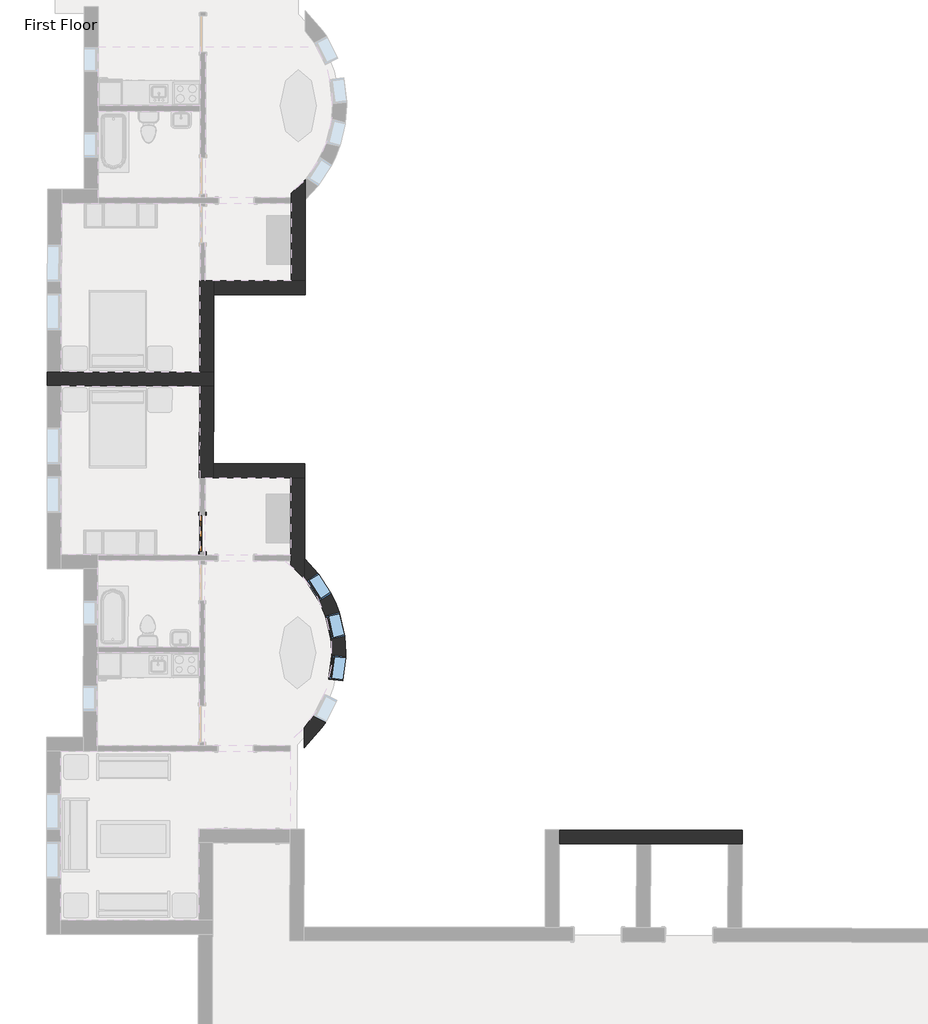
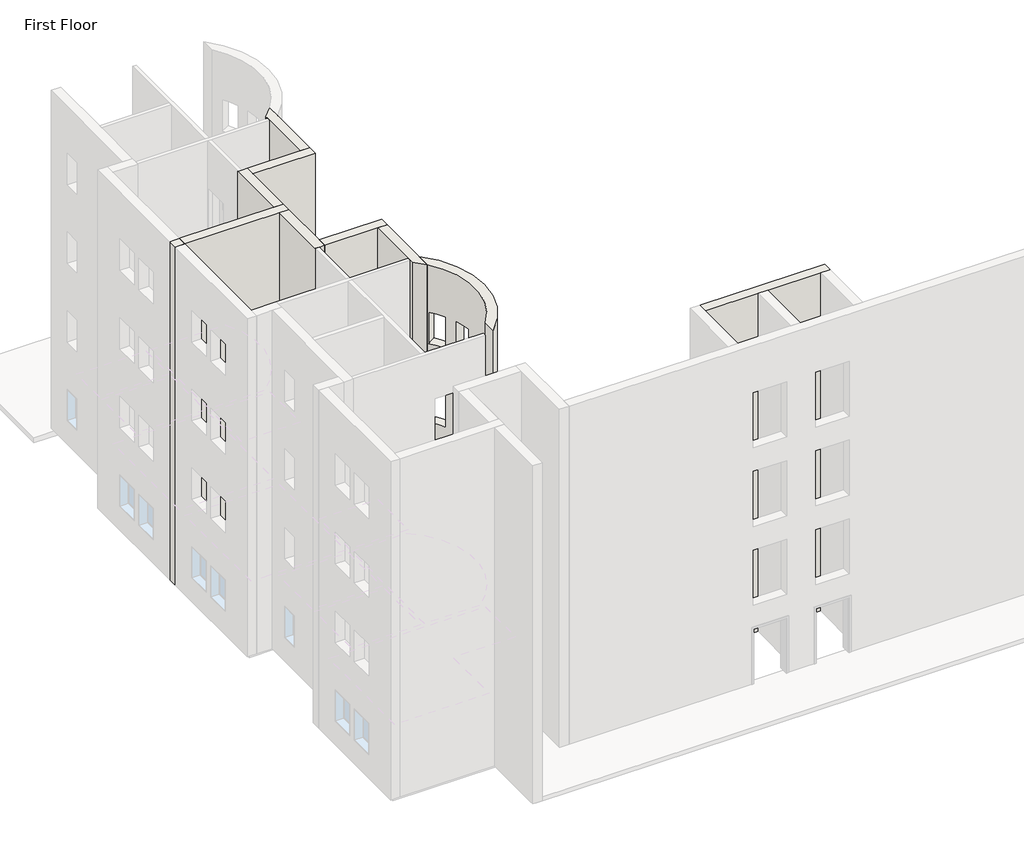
# One storey, part 7 of 23: 10 walls, 3 windows, 1 door.
"""IFC4 building model written with IfcOpenShell, lengths in millimetres."""

from ifc_helpers import new_model, si_unit, frame, origin, origin_with_axes, place, context, project, spatial, polyline, circle_curve, outline, extrude, faceted_brep, transform, mapped, element, save
from ifc_brep_helpers import plane_surface, cylinder_surface, revolved_surface, advanced_brep
from components import m_single_decorative_2_0915_x_2134mm_0b11df3f, m_fixed_0610_x_1220mm_2c28ef1d, m_fixed_0610_x_1220mm_1ea27827

model = new_model("IFC4")

# Units and contexts
model_context = context("Model", 3, world=origin())
ifc_project = project(units=[si_unit("LENGTHUNIT", "METRE", prefix="MILLI")], contexts=[model_context])

# Site, building, storey
site = spatial("IfcSite", under=ifc_project)
building = spatial("IfcBuilding", under=site)
storey = spatial("IfcBuildingStorey", under=building, Name="First Floor", Elevation=0.0)

# Door
placement = place(None, origin())
m_single_decorative_2_0915_x_2134mm_shape = m_single_decorative_2_0915_x_2134mm_0b11df3f(model_context)
element("IfcDoor", 1, ObjectType="M_Single-Decorative 2 : 0915 x 2134mm", at=placement, inside=storey, context=model_context, shape_type="MappedRepresentation", body=[
    mapped(m_single_decorative_2_0915_x_2134mm_shape, transform((-30128.4841363, -23534.6169126, 0.0), x_axis=(-0.0014474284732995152, -0.9999989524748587, 0.0), y_axis=(0.9999989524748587, -0.0014474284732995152, 0.0), z_axis=(0.0, 0.0, 1.0))),
])

# Walls
element("IfcWall", 2, ObjectType="Exterior - Brick on Mtl. Stud", at=placement, inside=storey, context=model_context, shape_type="Brep", body=[
    faceted_brep([(-29847.6357278, -19494.2691882, 0.0), (-30197.6353611, -19493.7625882, 0.0), (-33657.6317367, -19488.7544857, 0.0), (-34007.6313701, -19488.2478857, 0.0), (-34007.6313701, -19488.2478857, 13107.0), (-33657.6317367, -19488.7544857, 13107.0), (-30197.6353611, -19493.7625882, 13107.0), (-29847.6357278, -19494.2691882, 13107.0), (-29848.1423277, -19844.2688215, 0.0), (-29848.1423277, -19844.2688215, 13107.0), (-30198.1419611, -19843.7622216, 13107.0), (-33658.1383367, -19838.7541191, 13107.0), (-34008.13797, -19838.2475191, 13107.0), (-34008.13797, -19838.2475191, 0.0), (-33658.1383367, -19838.7541191, 0.0), (-30198.1419611, -19843.7622216, 0.0)], [[[0, 1, 2, 3, 4, 5, 6, 7]], [[8, 9, 10, 11, 12, 13, 14, 15]], [[3, 2, 1, 0, 8, 15, 14, 13]], [[7, 6, 5, 4, 12, 11, 10, 9]], [[4, 3, 13, 12]], [[0, 7, 9, 8]]]),
])
element("IfcWall", 3, ObjectType="Exterior - Brick on Mtl. Stud", at=placement, inside=storey, context=model_context, shape_type="Brep", body=[
    faceted_brep([(-29847.6357278, -19494.2691882, 0.0), (-29844.8335063, -17558.2712162, 0.0), (-29844.3269063, -17208.2715828, 0.0), (-29844.3269063, -17208.2715828, 13107.0), (-29844.8335063, -17558.2712162, 13107.0), (-29847.6357278, -19494.2691882, 13107.0), (-30197.6353611, -19493.7625882, 0.0), (-30197.6353611, -19493.7625882, 13107.0), (-30194.3265397, -17207.7649828, 13107.0), (-30194.3265397, -17207.7649828, 0.0), (-30187.0765472, -17207.7754767, 0.0), (-30051.5766892, -17207.9716033, 0.0), (-30051.5766892, -17207.9716033, 13107.0), (-30187.0765472, -17207.7754767, 13107.0)], [[[0, 1, 2, 3, 4, 5]], [[6, 7, 8, 9]], [[2, 1, 0, 6, 9, 10, 11]], [[5, 4, 3, 12, 13, 8, 7]], [[0, 5, 7, 6]], [[3, 2, 11, 10, 9, 8, 13, 12]]]),
])
element("IfcWall", 4, ObjectType="Exterior - Brick on Mtl. Stud", at=placement, inside=storey, context=model_context, shape_type="Brep", body=[
    faceted_brep([(-29844.8335063, -17558.2712162, 0.0), (-27558.8359009, -17561.5800377, 0.0), (-27558.8359009, -17561.5800377, 13107.0), (-29844.8335063, -17558.2712162, 13107.0), (-29844.3269063, -17208.2715828, 0.0), (-29844.3269063, -17208.2715828, 13107.0), (-27908.3289343, -17211.0738043, 13107.0), (-27558.3293009, -17211.5804043, 13107.0), (-27558.3293009, -17211.5804043, 0.0), (-27908.3289343, -17211.0738043, 0.0)], [[[0, 1, 2, 3]], [[4, 5, 6, 7, 8, 9]], [[1, 0, 4, 9, 8]], [[3, 2, 7, 6, 5]], [[0, 3, 5, 4]], [[2, 1, 8, 7]]]),
])
element("IfcWall", 5, ObjectType="Exterior - Brick on Mtl. Stud", at=placement, inside=storey, context=model_context, shape_type="AdvancedBrep", body=[
    advanced_brep(
    [(-27558.3293009, -17211.5804043, 0.0), (-27555.3862129, -15178.2606268, 0.0), (-27554.6547514, -14672.9086878, 0.0), (-27554.6547514, -14672.9086878, 13107.0), (-27555.3862129, -15178.2606268, 13107.0), (-27558.3293009, -17211.5804043, 13107.0), (-27908.3289343, -17211.0738043, 0.0), (-27908.3289343, -17211.0738043, 13107.0), (-27905.5162189, -15267.8258399, 13107.0), (-27905.3200924, -15132.3259819, 13107.0), (-27905.157022, -15019.663975, 13107.0), (-27905.157022, -15019.663975, 0.0), (-27905.3200924, -15132.3259819, 0.0), (-27905.5162189, -15267.8258399, 0.0)],
    [
        (0, 1),
        (1, 2),
        (2, 3),
        (3, 4),
        (4, 5),
        (5, 0),
        (6, 7),
        (7, 8),
        (8, 9),
        (9, 10),
        (10, 11),
        (11, 12),
        (12, 13),
        (13, 6),
        (0, 6),
        (11, 2, circle_curve(frame((-29743.0251618, -12811.413604, 0.0), z_axis=(0.0, 0.0, 1.0), x_axis=(0.0014474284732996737, 0.9999989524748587, 0.0)), 2873.0)),
        (3, 10, circle_curve(frame((-29743.0251618, -12811.413604, 13107.0), z_axis=(0.0, 0.0, -1.0), x_axis=(0.0014474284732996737, 0.9999989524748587, 0.0)), 2873.0)),
        (7, 5),
    ],
    [
        plane_surface(frame((-27558.5826009, -17386.580221, 0.0), z_axis=(0.9999989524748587, -0.0014474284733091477, 0.0), x_axis=(0.0014474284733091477, 0.9999989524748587, 0.0))),
        plane_surface(frame((-27908.5822343, -17386.073621, 0.0), z_axis=(-0.9999989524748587, 0.0014474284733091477, 0.0), x_axis=(-0.0014474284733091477, -0.9999989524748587, 0.0))),
        plane_surface(frame((-27558.5826009, -17386.580221, 0.0), z_axis=(0.0, 0.0, -1.0), x_axis=(-0.9999989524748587, 0.001447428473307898, 0.0))),
        plane_surface(frame((-27555.2737794, -15100.5826156, 13107.0), z_axis=(0.0, 0.0, 1.0), x_axis=(-0.9999989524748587, 0.001447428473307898, 0.0))),
        plane_surface(frame((-30019.326723, -17208.0182828, 0.0), z_axis=(-0.0014474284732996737, -0.9999989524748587, 0.0), x_axis=(-0.9999989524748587, 0.0014474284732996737, 0.0))),
        revolved_surface(polyline([(-29738.86669979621, -9938.41661353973, 0.0), (-29738.86669979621, -9938.41661353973, 13107.0)]), (-29743.0251618, -12811.413604, 0.0), (0.0, 0.0, -1.0)),
    ],
    [
        (0, [[1, 2, 3, 4, 5, 6]]),
        (1, [[7, 8, 9, 10, 11, 12, 13, 14]]),
        (2, [[-2, -1, 15, -14, -13, -12, 16]]),
        (3, [[-5, -4, 17, -10, -9, -8, 18]]),
        (4, [[-6, -18, -7, -15]]),
        (5, [[-3, -16, -11, -17]]),
    ],
),
])
element("IfcWall", 6, ObjectType="Exterior - Brick on Mtl. Stud", at=placement, inside=storey, context=model_context, shape_type="Brep", body=[
    faceted_brep([(-21195.7227592, -31299.3523369, 0.0), (-19259.7308712, -31304.9567741, 0.0), (-18909.7323377, -31305.969973, 0.0), (-16973.7404497, -31311.5744101, 0.0), (-16623.7419163, -31312.587609, 0.0), (-16623.7419163, -31312.587609, 13107.0), (-16973.7404497, -31311.5744101, 13107.0), (-18909.7323377, -31305.969973, 13107.0), (-19259.7308712, -31304.9567741, 13107.0), (-21195.7227592, -31299.3523369, 13107.0), (-21194.7095603, -30949.3538034, 0.0), (-21194.7095603, -30949.3538034, 13107.0), (-16622.7287174, -30962.5890755, 13107.0), (-16622.7287174, -30962.5890755, 0.0)], [[[0, 1, 2, 3, 4, 5, 6, 7, 8, 9]], [[10, 11, 12, 13]], [[4, 3, 2, 1, 0, 10, 13]], [[9, 8, 7, 6, 5, 12, 11]], [[0, 9, 11, 10]], [[5, 4, 13, 12]]]),
])
element("IfcWall", 7, ObjectType="Exterior - Brick on Mtl. Stud", at=placement, inside=storey, context=model_context, shape_type="SweptSolid", body=[
    extrude(outline(polyline([(-33657.6317367, -19488.7544857), (-30197.6353611, -19493.7625882), (-30198.1419611, -19843.7622216), (-33658.1383367, -19838.7541191), (-33657.6317367, -19488.7544857)])), origin_with_axes(), (0.0, 0.0, 1.0), 13107.0),
])
element("IfcWall", 8, ObjectType="Exterior - Brick on Mtl. Stud", at=placement, inside=storey, context=model_context, shape_type="Brep", body=[
    faceted_brep([(-30198.1419611, -19843.7622216, 0.0), (-30201.4507826, -22129.7598269, 0.0), (-30201.4507826, -22129.7598269, 13107.0), (-30198.1419611, -19843.7622216, 13107.0), (-29848.1423277, -19844.2688215, 0.0), (-29848.1423277, -19844.2688215, 13107.0), (-29850.9445493, -21780.2667935, 13107.0), (-29851.4511492, -22130.2664269, 13107.0), (-29851.4511492, -22130.2664269, 0.0), (-29850.9445493, -21780.2667935, 0.0), (-30058.7009321, -22129.9664473, 0.0), (-30194.2007902, -22129.7703208, 0.0), (-30194.2007902, -22129.7703208, 13107.0), (-30058.7009321, -22129.9664473, 13107.0)], [[[0, 1, 2, 3]], [[4, 5, 6, 7, 8, 9]], [[1, 0, 4, 9, 8, 10, 11]], [[3, 2, 12, 13, 7, 6, 5]], [[2, 1, 11, 10, 8, 7, 13, 12]], [[0, 3, 5, 4]]]),
])
element("IfcWall", 9, ObjectType="Exterior - Brick on Mtl. Stud", at=placement, inside=storey, context=model_context, shape_type="Brep", body=[
    faceted_brep([(-29851.4511492, -22130.2664269, 0.0), (-27915.4531772, -22133.0686484, 0.0), (-27565.4535439, -22133.5752484, 0.0), (-27565.4535439, -22133.5752484, 13107.0), (-27915.4531772, -22133.0686484, 13107.0), (-29851.4511492, -22130.2664269, 13107.0), (-29850.9445493, -21780.2667935, 0.0), (-29850.9445493, -21780.2667935, 13107.0), (-27564.9469439, -21783.575615, 13107.0), (-27564.9469439, -21783.575615, 0.0)], [[[0, 1, 2, 3, 4, 5]], [[6, 7, 8, 9]], [[2, 1, 0, 6, 9]], [[5, 4, 3, 8, 7]], [[0, 5, 7, 6]], [[3, 2, 9, 8]]]),
])
element("IfcWall", 10, ObjectType="Exterior - Brick on Mtl. Stud", at=placement, inside=storey, context=model_context, shape_type="AdvancedBrep", body=[
    advanced_brep(
    [(-27915.4531772, -22133.0686484, 0.0), (-27918.2658926, -24076.3166128, 0.0), (-27918.4620192, -24211.8164709, 0.0), (-27918.6250895, -24324.4784778, 0.0), (-27918.6250895, -24324.4784778, 13107.0), (-27918.4620192, -24211.8164709, 13107.0), (-27918.2658926, -24076.3166128, 13107.0), (-27915.4531772, -22133.0686484, 13107.0), (-27565.4535439, -22133.5752484, 0.0), (-27565.4535439, -22133.5752484, 13107.0), (-27568.3966319, -24166.8950259, 13107.0), (-27569.1280934, -24672.2469649, 13107.0), (-27569.1280934, -24672.2469649, 0.0), (-27568.3966319, -24166.8950259, 0.0)],
    [
        (0, 1),
        (1, 2),
        (2, 3),
        (3, 4),
        (4, 5),
        (5, 6),
        (6, 7),
        (7, 0),
        (8, 9),
        (9, 10),
        (10, 11),
        (11, 12),
        (12, 13),
        (13, 8),
        (0, 8),
        (12, 3, circle_curve(frame((-29762.8780907, -26527.3992362, 0.0), z_axis=(0.0, 0.0, 1.0), x_axis=(-0.0014474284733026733, -0.9999989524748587, 0.0)), 2873.0)),
        (4, 11, circle_curve(frame((-29762.8780907, -26527.3992362, 13107.0), z_axis=(0.0, 0.0, -1.0), x_axis=(-0.0014474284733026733, -0.9999989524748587, 0.0)), 2873.0)),
        (9, 7),
    ],
    [
        plane_surface(frame((-27915.1998773, -21958.0688317, 0.0), z_axis=(-0.9999989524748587, 0.0014474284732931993, 0.0), x_axis=(-0.0014474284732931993, -0.9999989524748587, 0.0))),
        plane_surface(frame((-27565.2002439, -21958.5754317, 0.0), z_axis=(0.9999989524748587, -0.0014474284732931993, 0.0), x_axis=(0.0014474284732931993, 0.9999989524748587, 0.0))),
        plane_surface(frame((-27915.1998773, -21958.0688317, 0.0), z_axis=(0.0, 0.0, -1.0), x_axis=(0.9999989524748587, -0.0014474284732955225, 0.0))),
        plane_surface(frame((-27918.5086987, -24244.0664371, 13107.0), z_axis=(0.0, 0.0, 1.0), x_axis=(0.9999989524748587, -0.0014474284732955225, 0.0))),
        plane_surface(frame((-30026.4509659, -22130.0131269, 0.0), z_axis=(0.0014474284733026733, 0.9999989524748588, 0.0), x_axis=(0.9999989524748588, -0.0014474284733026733, 0.0))),
        revolved_surface(polyline([(-29767.036552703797, -29400.39622666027, 0.0), (-29767.036552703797, -29400.39622666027, 13107.000000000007)]), (-29762.8780907, -26527.3992362, 0.0), (0.0, 0.0, -1.0000000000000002)),
    ],
    [
        (0, [[1, 2, 3, 4, 5, 6, 7, 8]]),
        (1, [[9, 10, 11, 12, 13, 14]]),
        (2, [[-3, -2, -1, 15, -14, -13, 16]]),
        (3, [[-7, -6, -5, 17, -11, -10, 18]]),
        (4, [[-8, -18, -9, -15]]),
        (5, [[-4, -16, -12, -17]]),
    ],
),
])
element("IfcWall", 11, ObjectType="Exterior - Brick on Mtl. Stud", at=placement, inside=storey, context=model_context, shape_type="AdvancedBrep", body=[
    advanced_brep(
    [(-27575.2391418, -28894.246259, 13107.0), (-27568.3966319, -24166.8950259, 13107.0), (-27569.1280934, -24672.2469649, 13107.0), (-27574.5076803, -28388.8943199, 13107.0), (-27568.3966319, -24166.8950259, 0.0), (-27575.2391418, -28894.246259, 0.0), (-27574.5076803, -28388.8943199, 0.0), (-27569.1280934, -24672.2469649, 0.0), (-27239.7477676, -24522.0208747, 2135.0), (-27239.7477676, -24522.0208747, 915.0), (-26907.0944773, -25033.3346614, 915.0), (-26907.0944773, -25033.3346614, 2135.0), (-26706.0313502, -25505.9213828, 2135.0), (-26706.0313502, -25505.9213828, 915.0), (-26568.3191227, -26100.173301, 915.0), (-26568.3191227, -26100.173301, 2135.0), (-26614.8547262, -27218.5416936, 915.0), (-26614.8547262, -27218.5416936, 2135.0), (-26541.0157639, -26613.0271953, 2135.0), (-26541.0157639, -26613.0271953, 915.0), (-27041.0884074, -28253.5481057, 915.0), (-27041.0884074, -28253.5481057, 2135.0), (-26764.6043239, -27709.8050123, 2135.0), (-26764.6043239, -27709.8050123, 915.0), (-26614.8547262, -27218.5416936, 10059.0), (-26614.8547262, -27218.5416936, 11279.0), (-26541.0157639, -26613.0271953, 11279.0), (-26541.0157639, -26613.0271953, 10059.0), (-27041.0884074, -28253.5481057, 10059.0), (-27041.0884074, -28253.5481057, 11279.0), (-26764.6043239, -27709.8050123, 11279.0), (-26764.6043239, -27709.8050123, 10059.0), (-26706.0313502, -25505.9213828, 10059.0), (-26568.3191227, -26100.173301, 10059.0), (-26568.3191227, -26100.173301, 11279.0), (-26706.0313502, -25505.9213828, 11279.0), (-27239.7477676, -24522.0208747, 10059.0), (-26907.0944773, -25033.3346614, 10059.0), (-26907.0944773, -25033.3346614, 11279.0), (-27239.7477676, -24522.0208747, 11279.0), (-26614.8547262, -27218.5416936, 3963.0), (-26614.8547262, -27218.5416936, 5183.0), (-26541.0157639, -26613.0271953, 5183.0), (-26541.0157639, -26613.0271953, 3963.0), (-27041.0884074, -28253.5481057, 3963.0), (-27041.0884074, -28253.5481057, 5183.0), (-26764.6043239, -27709.8050123, 5183.0), (-26764.6043239, -27709.8050123, 3963.0), (-26706.0313502, -25505.9213828, 3963.0), (-26568.3191227, -26100.173301, 3963.0), (-26568.3191227, -26100.173301, 5183.0), (-26706.0313502, -25505.9213828, 5183.0), (-27239.7477676, -24522.0208747, 3963.0), (-26907.0944773, -25033.3346614, 3963.0), (-26907.0944773, -25033.3346614, 5183.0), (-27239.7477676, -24522.0208747, 5183.0), (-26614.8547262, -27218.5416936, 7011.0), (-26614.8547262, -27218.5416936, 8231.0), (-26541.0157639, -26613.0271953, 8231.0), (-26541.0157639, -26613.0271953, 7011.0), (-27041.0884074, -28253.5481057, 7011.0), (-27041.0884074, -28253.5481057, 8231.0), (-26764.6043239, -27709.8050123, 8231.0), (-26764.6043239, -27709.8050123, 7011.0), (-26706.0313502, -25505.9213828, 7011.0), (-26568.3191227, -26100.173301, 7011.0), (-26568.3191227, -26100.173301, 8231.0), (-26706.0313502, -25505.9213828, 8231.0), (-27239.7477676, -24522.0208747, 7011.0), (-26907.0944773, -25033.3346614, 7011.0), (-26907.0944773, -25033.3346614, 8231.0), (-27239.7477676, -24522.0208747, 8231.0), (-27534.6094454, -24713.8535807, 915.0), (-27534.6094454, -24713.8535807, 2135.0), (-27201.9561552, -25225.1673674, 2135.0), (-27201.9561552, -25225.1673674, 915.0), (-27048.7213426, -25585.3365277, 915.0), (-27048.7213426, -25585.3365277, 2135.0), (-26911.0091151, -26179.588446, 2135.0), (-26911.0091151, -26179.588446, 915.0), (-26964.0395625, -27175.960639, 915.0), (-26890.2006003, -26570.4461407, 915.0), (-26890.2006003, -26570.4461407, 2135.0), (-26964.0395625, -27175.960639, 2135.0), (-27354.651243, -28094.1067551, 915.0), (-27078.1671595, -27550.3636617, 915.0), (-27078.1671595, -27550.3636617, 2135.0), (-27354.651243, -28094.1067551, 2135.0), (-26964.0395625, -27175.960639, 10059.0), (-26890.2006003, -26570.4461407, 10059.0), (-26890.2006003, -26570.4461407, 11279.0), (-26964.0395625, -27175.960639, 11279.0), (-27354.651243, -28094.1067551, 10059.0), (-27078.1671595, -27550.3636617, 10059.0), (-27078.1671595, -27550.3636617, 11279.0), (-27354.651243, -28094.1067551, 11279.0), (-27048.7213426, -25585.3365277, 10059.0), (-27048.7213426, -25585.3365277, 11279.0), (-26911.0091151, -26179.588446, 11279.0), (-26911.0091151, -26179.588446, 10059.0), (-27534.6094454, -24713.8535807, 10059.0), (-27534.6094454, -24713.8535807, 11279.0), (-27201.9561552, -25225.1673674, 11279.0), (-27201.9561552, -25225.1673674, 10059.0), (-26964.0395625, -27175.960639, 3963.0), (-26890.2006003, -26570.4461407, 3963.0), (-26890.2006003, -26570.4461407, 5183.0), (-26964.0395625, -27175.960639, 5183.0), (-27354.651243, -28094.1067551, 3963.0), (-27078.1671595, -27550.3636617, 3963.0), (-27078.1671595, -27550.3636617, 5183.0), (-27354.651243, -28094.1067551, 5183.0), (-27048.7213426, -25585.3365277, 3963.0), (-27048.7213426, -25585.3365277, 5183.0), (-26911.0091151, -26179.588446, 5183.0), (-26911.0091151, -26179.588446, 3963.0), (-27534.6094454, -24713.8535807, 3963.0), (-27534.6094454, -24713.8535807, 5183.0), (-27201.9561552, -25225.1673674, 5183.0), (-27201.9561552, -25225.1673674, 3963.0), (-26964.0395625, -27175.960639, 7011.0), (-26890.2006003, -26570.4461407, 7011.0), (-26890.2006003, -26570.4461407, 8231.0), (-26964.0395625, -27175.960639, 8231.0), (-27354.651243, -28094.1067551, 7011.0), (-27078.1671595, -27550.3636617, 7011.0), (-27078.1671595, -27550.3636617, 8231.0), (-27354.651243, -28094.1067551, 8231.0), (-27048.7213426, -25585.3365277, 7011.0), (-27048.7213426, -25585.3365277, 8231.0), (-26911.0091151, -26179.588446, 8231.0), (-26911.0091151, -26179.588446, 7011.0), (-27534.6094454, -24713.8535807, 7011.0), (-27534.6094454, -24713.8535807, 8231.0), (-27201.9561552, -25225.1673674, 8231.0), (-27201.9561552, -25225.1673674, 7011.0)],
    [
        (0, 1, circle_curve(frame((-29762.8780907, -26527.3992362, 13107.0), z_axis=(0.0, 0.0, 1.0), x_axis=(-0.0014474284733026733, -0.9999989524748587, 0.0)), 3223.0)),
        (1, 2),
        (2, 3, circle_curve(frame((-29762.8780907, -26527.3992362, 13107.0), z_axis=(0.0, 0.0, -1.0), x_axis=(-0.0014474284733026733, -0.9999989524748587, 0.0)), 2873.0)),
        (3, 0),
        (4, 5, circle_curve(frame((-29762.8780907, -26527.3992362, 0.0), z_axis=(0.0, 0.0, -1.0), x_axis=(-0.0014474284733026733, -0.9999989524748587, 0.0)), 3223.0)),
        (5, 6),
        (6, 7, circle_curve(frame((-29762.8780907, -26527.3992362, 0.0), z_axis=(0.0, 0.0, 1.0), x_axis=(-0.0014474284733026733, -0.9999989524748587, 0.0)), 2873.0)),
        (7, 4),
        (0, 5),
        (4, 1),
        (8, 9),
        (9, 10, circle_curve(frame((-29762.8780907, -26527.3992362, 915.0), z_axis=(0.0, 0.0, -1.0), x_axis=(-0.0014474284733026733, -0.9999989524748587, 0.0)), 3223.0)),
        (10, 11),
        (11, 8, circle_curve(frame((-29762.8780907, -26527.3992362, 2135.0), z_axis=(0.0, 0.0, 1.0), x_axis=(-0.0014474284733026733, -0.9999989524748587, 0.0)), 3223.0)),
        (12, 13),
        (13, 14, circle_curve(frame((-29762.8780907, -26527.3992362, 915.0), z_axis=(0.0, 0.0, -1.0), x_axis=(-0.0014474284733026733, -0.9999989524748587, 0.0)), 3223.0)),
        (14, 15),
        (15, 12, circle_curve(frame((-29762.8780907, -26527.3992362, 2135.0), z_axis=(0.0, 0.0, 1.0), x_axis=(-0.0014474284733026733, -0.9999989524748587, 0.0)), 3223.0)),
        (16, 17),
        (17, 18, circle_curve(frame((-29762.8780907, -26527.3992362, 2135.0), z_axis=(0.0, 0.0, 1.0), x_axis=(-0.0014474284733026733, -0.9999989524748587, 0.0)), 3223.0)),
        (18, 19),
        (19, 16, circle_curve(frame((-29762.8780907, -26527.3992362, 915.0), z_axis=(0.0, 0.0, -1.0), x_axis=(-0.0014474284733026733, -0.9999989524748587, 0.0)), 3223.0)),
        (20, 21),
        (21, 22, circle_curve(frame((-29762.8780907, -26527.3992362, 2135.0), z_axis=(0.0, 0.0, 1.0), x_axis=(-0.0014474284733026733, -0.9999989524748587, 0.0)), 3223.0)),
        (22, 23),
        (23, 20, circle_curve(frame((-29762.8780907, -26527.3992362, 915.0), z_axis=(0.0, 0.0, -1.0), x_axis=(-0.0014474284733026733, -0.9999989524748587, 0.0)), 3223.0)),
        (24, 25),
        (25, 26, circle_curve(frame((-29762.8780907, -26527.3992362, 11279.0), z_axis=(0.0, 0.0, 1.0), x_axis=(-0.0014474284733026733, -0.9999989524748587, 0.0)), 3223.0)),
        (26, 27),
        (27, 24, circle_curve(frame((-29762.8780907, -26527.3992362, 10059.0), z_axis=(0.0, 0.0, -1.0), x_axis=(-0.0014474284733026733, -0.9999989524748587, 0.0)), 3223.0)),
        (28, 29),
        (29, 30, circle_curve(frame((-29762.8780907, -26527.3992362, 11279.0), z_axis=(0.0, 0.0, 1.0), x_axis=(-0.0014474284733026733, -0.9999989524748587, 0.0)), 3223.0)),
        (30, 31),
        (31, 28, circle_curve(frame((-29762.8780907, -26527.3992362, 10059.0), z_axis=(0.0, 0.0, -1.0), x_axis=(-0.0014474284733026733, -0.9999989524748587, 0.0)), 3223.0)),
        (32, 33, circle_curve(frame((-29762.8780907, -26527.3992362, 10059.0), z_axis=(0.0, 0.0, -1.0), x_axis=(-0.0014474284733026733, -0.9999989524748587, 0.0)), 3223.0)),
        (33, 34),
        (34, 35, circle_curve(frame((-29762.8780907, -26527.3992362, 11279.0), z_axis=(0.0, 0.0, 1.0), x_axis=(-0.0014474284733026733, -0.9999989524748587, 0.0)), 3223.0)),
        (35, 32),
        (36, 37, circle_curve(frame((-29762.8780907, -26527.3992362, 10059.0), z_axis=(0.0, 0.0, -1.0), x_axis=(-0.0014474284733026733, -0.9999989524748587, 0.0)), 3223.0)),
        (37, 38),
        (38, 39, circle_curve(frame((-29762.8780907, -26527.3992362, 11279.0), z_axis=(0.0, 0.0, 1.0), x_axis=(-0.0014474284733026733, -0.9999989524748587, 0.0)), 3223.0)),
        (39, 36),
        (40, 41),
        (41, 42, circle_curve(frame((-29762.8780907, -26527.3992362, 5183.0), z_axis=(0.0, 0.0, 1.0), x_axis=(-0.0014474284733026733, -0.9999989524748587, 0.0)), 3223.0)),
        (42, 43),
        (43, 40, circle_curve(frame((-29762.8780907, -26527.3992362, 3963.0), z_axis=(0.0, 0.0, -1.0), x_axis=(-0.0014474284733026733, -0.9999989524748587, 0.0)), 3223.0)),
        (44, 45),
        (45, 46, circle_curve(frame((-29762.8780907, -26527.3992362, 5183.0), z_axis=(0.0, 0.0, 1.0), x_axis=(-0.0014474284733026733, -0.9999989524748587, 0.0)), 3223.0)),
        (46, 47),
        (47, 44, circle_curve(frame((-29762.8780907, -26527.3992362, 3963.0), z_axis=(0.0, 0.0, -1.0), x_axis=(-0.0014474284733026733, -0.9999989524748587, 0.0)), 3223.0)),
        (48, 49, circle_curve(frame((-29762.8780907, -26527.3992362, 3963.0), z_axis=(0.0, 0.0, -1.0), x_axis=(-0.0014474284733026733, -0.9999989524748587, 0.0)), 3223.0)),
        (49, 50),
        (50, 51, circle_curve(frame((-29762.8780907, -26527.3992362, 5183.0), z_axis=(0.0, 0.0, 1.0), x_axis=(-0.0014474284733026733, -0.9999989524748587, 0.0)), 3223.0)),
        (51, 48),
        (52, 53, circle_curve(frame((-29762.8780907, -26527.3992362, 3963.0), z_axis=(0.0, 0.0, -1.0), x_axis=(-0.0014474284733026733, -0.9999989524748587, 0.0)), 3223.0)),
        (53, 54),
        (54, 55, circle_curve(frame((-29762.8780907, -26527.3992362, 5183.0), z_axis=(0.0, 0.0, 1.0), x_axis=(-0.0014474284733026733, -0.9999989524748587, 0.0)), 3223.0)),
        (55, 52),
        (56, 57),
        (57, 58, circle_curve(frame((-29762.8780907, -26527.3992362, 8231.0), z_axis=(0.0, 0.0, 1.0), x_axis=(-0.0014474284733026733, -0.9999989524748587, 0.0)), 3223.0)),
        (58, 59),
        (59, 56, circle_curve(frame((-29762.8780907, -26527.3992362, 7011.0), z_axis=(0.0, 0.0, -1.0), x_axis=(-0.0014474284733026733, -0.9999989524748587, 0.0)), 3223.0)),
        (60, 61),
        (61, 62, circle_curve(frame((-29762.8780907, -26527.3992362, 8231.0), z_axis=(0.0, 0.0, 1.0), x_axis=(-0.0014474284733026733, -0.9999989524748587, 0.0)), 3223.0)),
        (62, 63),
        (63, 60, circle_curve(frame((-29762.8780907, -26527.3992362, 7011.0), z_axis=(0.0, 0.0, -1.0), x_axis=(-0.0014474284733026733, -0.9999989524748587, 0.0)), 3223.0)),
        (64, 65, circle_curve(frame((-29762.8780907, -26527.3992362, 7011.0), z_axis=(0.0, 0.0, -1.0), x_axis=(-0.0014474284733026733, -0.9999989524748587, 0.0)), 3223.0)),
        (65, 66),
        (66, 67, circle_curve(frame((-29762.8780907, -26527.3992362, 8231.0), z_axis=(0.0, 0.0, 1.0), x_axis=(-0.0014474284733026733, -0.9999989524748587, 0.0)), 3223.0)),
        (67, 64),
        (68, 69, circle_curve(frame((-29762.8780907, -26527.3992362, 7011.0), z_axis=(0.0, 0.0, -1.0), x_axis=(-0.0014474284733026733, -0.9999989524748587, 0.0)), 3223.0)),
        (69, 70),
        (70, 71, circle_curve(frame((-29762.8780907, -26527.3992362, 8231.0), z_axis=(0.0, 0.0, 1.0), x_axis=(-0.0014474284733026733, -0.9999989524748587, 0.0)), 3223.0)),
        (71, 68),
        (2, 7),
        (6, 3),
        (72, 73),
        (73, 74, circle_curve(frame((-29762.8780907, -26527.3992362, 2135.0), z_axis=(0.0, 0.0, -1.0), x_axis=(-0.0014474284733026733, -0.9999989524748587, 0.0)), 2873.0)),
        (74, 75),
        (75, 72, circle_curve(frame((-29762.8780907, -26527.3992362, 915.0), z_axis=(0.0, 0.0, 1.0), x_axis=(-0.0014474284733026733, -0.9999989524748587, 0.0)), 2873.0)),
        (76, 77),
        (77, 78, circle_curve(frame((-29762.8780907, -26527.3992362, 2135.0), z_axis=(0.0, 0.0, -1.0), x_axis=(-0.0014474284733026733, -0.9999989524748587, 0.0)), 2873.0)),
        (78, 79),
        (79, 76, circle_curve(frame((-29762.8780907, -26527.3992362, 915.0), z_axis=(0.0, 0.0, 1.0), x_axis=(-0.0014474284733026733, -0.9999989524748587, 0.0)), 2873.0)),
        (80, 81, circle_curve(frame((-29762.8780907, -26527.3992362, 915.0), z_axis=(0.0, 0.0, 1.0), x_axis=(-0.0014474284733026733, -0.9999989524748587, 0.0)), 2873.0)),
        (81, 82),
        (82, 83, circle_curve(frame((-29762.8780907, -26527.3992362, 2135.0), z_axis=(0.0, 0.0, -1.0), x_axis=(-0.0014474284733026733, -0.9999989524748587, 0.0)), 2873.0)),
        (83, 80),
        (84, 85, circle_curve(frame((-29762.8780907, -26527.3992362, 915.0), z_axis=(0.0, 0.0, 1.0), x_axis=(-0.0014474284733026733, -0.9999989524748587, 0.0)), 2873.0)),
        (85, 86),
        (86, 87, circle_curve(frame((-29762.8780907, -26527.3992362, 2135.0), z_axis=(0.0, 0.0, -1.0), x_axis=(-0.0014474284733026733, -0.9999989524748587, 0.0)), 2873.0)),
        (87, 84),
        (88, 89, circle_curve(frame((-29762.8780907, -26527.3992362, 10059.0), z_axis=(0.0, 0.0, 1.0), x_axis=(-0.0014474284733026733, -0.9999989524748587, 0.0)), 2873.0)),
        (89, 90),
        (90, 91, circle_curve(frame((-29762.8780907, -26527.3992362, 11279.0), z_axis=(0.0, 0.0, -1.0), x_axis=(-0.0014474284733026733, -0.9999989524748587, 0.0)), 2873.0)),
        (91, 88),
        (92, 93, circle_curve(frame((-29762.8780907, -26527.3992362, 10059.0), z_axis=(0.0, 0.0, 1.0), x_axis=(-0.0014474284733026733, -0.9999989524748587, 0.0)), 2873.0)),
        (93, 94),
        (94, 95, circle_curve(frame((-29762.8780907, -26527.3992362, 11279.0), z_axis=(0.0, 0.0, -1.0), x_axis=(-0.0014474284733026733, -0.9999989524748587, 0.0)), 2873.0)),
        (95, 92),
        (96, 97),
        (97, 98, circle_curve(frame((-29762.8780907, -26527.3992362, 11279.0), z_axis=(0.0, 0.0, -1.0), x_axis=(-0.0014474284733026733, -0.9999989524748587, 0.0)), 2873.0)),
        (98, 99),
        (99, 96, circle_curve(frame((-29762.8780907, -26527.3992362, 10059.0), z_axis=(0.0, 0.0, 1.0), x_axis=(-0.0014474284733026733, -0.9999989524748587, 0.0)), 2873.0)),
        (100, 101),
        (101, 102, circle_curve(frame((-29762.8780907, -26527.3992362, 11279.0), z_axis=(0.0, 0.0, -1.0), x_axis=(-0.0014474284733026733, -0.9999989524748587, 0.0)), 2873.0)),
        (102, 103),
        (103, 100, circle_curve(frame((-29762.8780907, -26527.3992362, 10059.0), z_axis=(0.0, 0.0, 1.0), x_axis=(-0.0014474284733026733, -0.9999989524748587, 0.0)), 2873.0)),
        (104, 105, circle_curve(frame((-29762.8780907, -26527.3992362, 3963.0), z_axis=(0.0, 0.0, 1.0), x_axis=(-0.0014474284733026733, -0.9999989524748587, 0.0)), 2873.0)),
        (105, 106),
        (106, 107, circle_curve(frame((-29762.8780907, -26527.3992362, 5183.0), z_axis=(0.0, 0.0, -1.0), x_axis=(-0.0014474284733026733, -0.9999989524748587, 0.0)), 2873.0)),
        (107, 104),
        (108, 109, circle_curve(frame((-29762.8780907, -26527.3992362, 3963.0), z_axis=(0.0, 0.0, 1.0), x_axis=(-0.0014474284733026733, -0.9999989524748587, 0.0)), 2873.0)),
        (109, 110),
        (110, 111, circle_curve(frame((-29762.8780907, -26527.3992362, 5183.0), z_axis=(0.0, 0.0, -1.0), x_axis=(-0.0014474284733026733, -0.9999989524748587, 0.0)), 2873.0)),
        (111, 108),
        (112, 113),
        (113, 114, circle_curve(frame((-29762.8780907, -26527.3992362, 5183.0), z_axis=(0.0, 0.0, -1.0), x_axis=(-0.0014474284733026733, -0.9999989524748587, 0.0)), 2873.0)),
        (114, 115),
        (115, 112, circle_curve(frame((-29762.8780907, -26527.3992362, 3963.0), z_axis=(0.0, 0.0, 1.0), x_axis=(-0.0014474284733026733, -0.9999989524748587, 0.0)), 2873.0)),
        (116, 117),
        (117, 118, circle_curve(frame((-29762.8780907, -26527.3992362, 5183.0), z_axis=(0.0, 0.0, -1.0), x_axis=(-0.0014474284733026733, -0.9999989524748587, 0.0)), 2873.0)),
        (118, 119),
        (119, 116, circle_curve(frame((-29762.8780907, -26527.3992362, 3963.0), z_axis=(0.0, 0.0, 1.0), x_axis=(-0.0014474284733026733, -0.9999989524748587, 0.0)), 2873.0)),
        (120, 121, circle_curve(frame((-29762.8780907, -26527.3992362, 7011.0), z_axis=(0.0, 0.0, 1.0), x_axis=(-0.0014474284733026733, -0.9999989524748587, 0.0)), 2873.0)),
        (121, 122),
        (122, 123, circle_curve(frame((-29762.8780907, -26527.3992362, 8231.0), z_axis=(0.0, 0.0, -1.0), x_axis=(-0.0014474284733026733, -0.9999989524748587, 0.0)), 2873.0)),
        (123, 120),
        (124, 125, circle_curve(frame((-29762.8780907, -26527.3992362, 7011.0), z_axis=(0.0, 0.0, 1.0), x_axis=(-0.0014474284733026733, -0.9999989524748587, 0.0)), 2873.0)),
        (125, 126),
        (126, 127, circle_curve(frame((-29762.8780907, -26527.3992362, 8231.0), z_axis=(0.0, 0.0, -1.0), x_axis=(-0.0014474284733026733, -0.9999989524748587, 0.0)), 2873.0)),
        (127, 124),
        (128, 129),
        (129, 130, circle_curve(frame((-29762.8780907, -26527.3992362, 8231.0), z_axis=(0.0, 0.0, -1.0), x_axis=(-0.0014474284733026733, -0.9999989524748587, 0.0)), 2873.0)),
        (130, 131),
        (131, 128, circle_curve(frame((-29762.8780907, -26527.3992362, 7011.0), z_axis=(0.0, 0.0, 1.0), x_axis=(-0.0014474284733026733, -0.9999989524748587, 0.0)), 2873.0)),
        (132, 133),
        (133, 134, circle_curve(frame((-29762.8780907, -26527.3992362, 8231.0), z_axis=(0.0, 0.0, -1.0), x_axis=(-0.0014474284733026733, -0.9999989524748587, 0.0)), 2873.0)),
        (134, 135),
        (135, 132, circle_curve(frame((-29762.8780907, -26527.3992362, 7011.0), z_axis=(0.0, 0.0, 1.0), x_axis=(-0.0014474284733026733, -0.9999989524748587, 0.0)), 2873.0)),
        (72, 9),
        (8, 73),
        (11, 74),
        (10, 75),
        (76, 13),
        (12, 77),
        (15, 78),
        (14, 79),
        (16, 80),
        (83, 17),
        (82, 18),
        (81, 19),
        (20, 84),
        (87, 21),
        (86, 22),
        (85, 23),
        (24, 88),
        (91, 25),
        (90, 26),
        (89, 27),
        (28, 92),
        (95, 29),
        (94, 30),
        (93, 31),
        (96, 32),
        (35, 97),
        (34, 98),
        (33, 99),
        (100, 36),
        (39, 101),
        (38, 102),
        (37, 103),
        (40, 104),
        (107, 41),
        (106, 42),
        (105, 43),
        (44, 108),
        (111, 45),
        (110, 46),
        (109, 47),
        (112, 48),
        (51, 113),
        (50, 114),
        (49, 115),
        (116, 52),
        (55, 117),
        (54, 118),
        (53, 119),
        (56, 120),
        (123, 57),
        (122, 58),
        (121, 59),
        (60, 124),
        (127, 61),
        (126, 62),
        (125, 63),
        (128, 64),
        (67, 129),
        (66, 130),
        (65, 131),
        (132, 68),
        (71, 133),
        (70, 134),
        (69, 135),
    ],
    [
        plane_surface(frame((-29767.5431527, -29750.39586, 13107.0), z_axis=(0.0, 0.0, 1.0000000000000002), x_axis=(0.9999989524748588, -0.0014474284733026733, 0.0))),
        plane_surface(frame((-29767.5431527, -29750.39586, 0.0), z_axis=(0.0, 0.0, -1.0000000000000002), x_axis=(-0.9999989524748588, 0.0014474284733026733, 0.0))),
        cylinder_surface(frame((-29762.8780907, -26527.3992362, 0.0), z_axis=(0.0, 0.0, 1.0000000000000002), x_axis=(-0.0014474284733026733, -0.9999989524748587, 0.0)), 3223.0),
        revolved_surface(polyline([(-29767.036552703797, -29400.39622666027, 0.0), (-29767.036552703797, -29400.39622666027, 13107.000000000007)]), (-29762.8780907, -26527.3992362, 0.0), (0.0, 0.0, -1.0000000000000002)),
        plane_surface(frame((-27578.4355298, -31102.5658531, 0.0), z_axis=(-0.9999989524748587, 0.0014474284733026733, 0.0), x_axis=(0.0014474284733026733, 0.9999989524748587, 0.0))),
        plane_surface(frame((-27565.2002439, -21958.5754317, 0.0), z_axis=(-0.9999989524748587, 0.0014474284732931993, 0.0), x_axis=(0.0014474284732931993, 0.9999989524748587, 0.0))),
        plane_surface(frame((-27534.6094454, -24713.8535807, 915.0), z_axis=(0.5453332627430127, -0.8382193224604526, 0.0), x_axis=(0.8382193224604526, 0.5453332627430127, 0.0))),
        plane_surface(frame((-27534.6094454, -24713.8535807, 2135.0), z_axis=(0.0, 0.0, -1.0), x_axis=(0.8382193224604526, 0.5453332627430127, 0.0))),
        plane_surface(frame((-27201.9561552, -25225.1673674, 2135.0), z_axis=(-0.5453332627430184, 0.838219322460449, 0.0), x_axis=(0.838219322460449, 0.5453332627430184, 0.0))),
        plane_surface(frame((-27201.9561552, -25225.1673674, 915.0), z_axis=(0.0, 0.0, 1.0), x_axis=(0.838219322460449, 0.5453332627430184, 0.0))),
        plane_surface(frame((-25221.375738, -25161.8665717, 915.0), z_axis=(0.22575775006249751, -0.9741834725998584, 0.0), x_axis=(-0.9741834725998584, -0.22575775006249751, 0.0))),
        plane_surface(frame((-25221.375738, -25161.8665717, 2135.0), z_axis=(0.0, 0.0, -1.0), x_axis=(-0.9741834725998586, -0.22575775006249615, 0.0))),
        plane_surface(frame((-25083.6635104, -25756.1184899, 2135.0), z_axis=(-0.22575775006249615, 0.9741834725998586, 0.0), x_axis=(-0.9741834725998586, -0.22575775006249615, 0.0))),
        plane_surface(frame((-25083.6635104, -25756.1184899, 915.0), z_axis=(0.0, 0.0, 1.0), x_axis=(-0.9741834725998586, -0.22575775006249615, 0.0))),
        plane_surface(frame((-26614.8547262, -27218.5416936, 915.0), z_axis=(0.1210474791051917, 0.992646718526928, 0.0), x_axis=(-0.992646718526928, 0.1210474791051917, 0.0))),
        plane_surface(frame((-26614.8547262, -27218.5416936, 2135.0), z_axis=(0.0, 0.0, -1.0), x_axis=(-0.992646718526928, 0.1210474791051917, 0.0))),
        plane_surface(frame((-26541.0157639, -26613.0271953, 2135.0), z_axis=(-0.1210474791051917, -0.992646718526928, 0.0), x_axis=(-0.992646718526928, 0.1210474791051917, 0.0))),
        plane_surface(frame((-26541.0157639, -26613.0271953, 915.0), z_axis=(0.0, 0.0, 1.0), x_axis=(-0.992646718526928, 0.1210474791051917, 0.0))),
        plane_surface(frame((-27041.0884074, -28253.5481057, 915.0), z_axis=(0.45325259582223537, 0.8913821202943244, 0.0), x_axis=(-0.8913821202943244, 0.45325259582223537, 0.0))),
        plane_surface(frame((-27041.0884074, -28253.5481057, 2135.0), z_axis=(0.0, 0.0, -1.0), x_axis=(-0.8913821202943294, 0.4532525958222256, 0.0))),
        plane_surface(frame((-26764.6043239, -27709.8050123, 2135.0), z_axis=(-0.4532525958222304, -0.891382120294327, 0.0), x_axis=(-0.891382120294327, 0.4532525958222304, 0.0))),
        plane_surface(frame((-26764.6043239, -27709.8050123, 915.0), z_axis=(0.0, 0.0, 1.0), x_axis=(-0.891382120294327, 0.4532525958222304, 0.0))),
        plane_surface(frame((-26614.8547262, -27218.5416936, 10059.0), z_axis=(0.1210474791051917, 0.992646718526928, 0.0), x_axis=(-0.992646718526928, 0.1210474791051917, 0.0))),
        plane_surface(frame((-26614.8547262, -27218.5416936, 11279.0), z_axis=(0.0, 0.0, -1.0), x_axis=(-0.992646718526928, 0.1210474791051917, 0.0))),
        plane_surface(frame((-26541.0157639, -26613.0271953, 11279.0), z_axis=(-0.1210474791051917, -0.992646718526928, 0.0), x_axis=(-0.992646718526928, 0.1210474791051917, 0.0))),
        plane_surface(frame((-26541.0157639, -26613.0271953, 10059.0), z_axis=(0.0, 0.0, 1.0), x_axis=(-0.992646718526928, 0.1210474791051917, 0.0))),
        plane_surface(frame((-27041.0884074, -28253.5481057, 10059.0), z_axis=(0.4532525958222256, 0.8913821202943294, 0.0), x_axis=(-0.8913821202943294, 0.4532525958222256, 0.0))),
        plane_surface(frame((-27041.0884074, -28253.5481057, 11279.0), z_axis=(0.0, 0.0, -1.0), x_axis=(-0.8913821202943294, 0.4532525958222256, 0.0))),
        plane_surface(frame((-26764.6043239, -27709.8050123, 11279.0), z_axis=(-0.4532525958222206, -0.891382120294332, 0.0), x_axis=(-0.891382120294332, 0.4532525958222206, 0.0))),
        plane_surface(frame((-26764.6043239, -27709.8050123, 10059.0), z_axis=(0.0, 0.0, 1.0000000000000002), x_axis=(-0.891382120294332, 0.4532525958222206, 0.0))),
        plane_surface(frame((-27048.7213426, -25585.3365277, 10059.0), z_axis=(0.2257577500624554, -0.9741834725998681, 0.0), x_axis=(0.9741834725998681, 0.2257577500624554, 0.0))),
        plane_surface(frame((-27048.7213426, -25585.3365277, 11279.0), z_axis=(0.0, 0.0, -1.0), x_axis=(0.9741834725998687, 0.2257577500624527, 0.0))),
        plane_surface(frame((-26911.0091151, -26179.588446, 11279.0), z_axis=(-0.22575775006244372, 0.9741834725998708, 0.0), x_axis=(0.9741834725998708, 0.22575775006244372, 0.0))),
        plane_surface(frame((-26911.0091151, -26179.588446, 10059.0), z_axis=(0.0, 0.0, 1.0), x_axis=(0.9741834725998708, 0.22575775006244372, 0.0))),
        plane_surface(frame((-27534.6094454, -24713.8535807, 10059.0), z_axis=(0.5453332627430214, -0.8382193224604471, 0.0), x_axis=(0.8382193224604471, 0.5453332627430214, 0.0))),
        plane_surface(frame((-27534.6094454, -24713.8535807, 11279.0), z_axis=(0.0, 0.0, -1.0), x_axis=(0.838219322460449, 0.5453332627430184, 0.0))),
        plane_surface(frame((-27201.9561552, -25225.1673674, 11279.0), z_axis=(-0.545333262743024, 0.8382193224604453, 0.0), x_axis=(0.8382193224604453, 0.545333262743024, 0.0))),
        plane_surface(frame((-27201.9561552, -25225.1673674, 10059.0), z_axis=(0.0, 0.0, 1.0), x_axis=(0.8382193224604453, 0.545333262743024, 0.0))),
        plane_surface(frame((-26614.8547262, -27218.5416936, 3963.0), z_axis=(0.1210474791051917, 0.992646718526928, 0.0), x_axis=(-0.992646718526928, 0.1210474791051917, 0.0))),
        plane_surface(frame((-26614.8547262, -27218.5416936, 5183.0), z_axis=(0.0, 0.0, -1.0), x_axis=(-0.992646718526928, 0.1210474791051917, 0.0))),
        plane_surface(frame((-26541.0157639, -26613.0271953, 5183.0), z_axis=(-0.1210474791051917, -0.992646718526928, 0.0), x_axis=(-0.992646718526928, 0.1210474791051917, 0.0))),
        plane_surface(frame((-26541.0157639, -26613.0271953, 3963.0), z_axis=(0.0, 0.0, 1.0), x_axis=(-0.992646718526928, 0.1210474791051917, 0.0))),
        plane_surface(frame((-27041.0884074, -28253.5481057, 3963.0), z_axis=(0.4532525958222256, 0.8913821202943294, 0.0), x_axis=(-0.8913821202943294, 0.4532525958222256, 0.0))),
        plane_surface(frame((-27041.0884074, -28253.5481057, 5183.0), z_axis=(0.0, 0.0, -1.0), x_axis=(-0.8913821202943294, 0.4532525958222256, 0.0))),
        plane_surface(frame((-26764.6043239, -27709.8050123, 5183.0), z_axis=(-0.4532525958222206, -0.891382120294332, 0.0), x_axis=(-0.891382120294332, 0.4532525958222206, 0.0))),
        plane_surface(frame((-26764.6043239, -27709.8050123, 3963.0), z_axis=(0.0, 0.0, 1.0000000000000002), x_axis=(-0.891382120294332, 0.4532525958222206, 0.0))),
        plane_surface(frame((-27048.7213426, -25585.3365277, 3963.0), z_axis=(0.2257577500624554, -0.9741834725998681, 0.0), x_axis=(0.9741834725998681, 0.2257577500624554, 0.0))),
        plane_surface(frame((-27048.7213426, -25585.3365277, 5183.0), z_axis=(0.0, 0.0, -1.0), x_axis=(0.9741834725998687, 0.2257577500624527, 0.0))),
        plane_surface(frame((-26911.0091151, -26179.588446, 5183.0), z_axis=(-0.22575775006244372, 0.9741834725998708, 0.0), x_axis=(0.9741834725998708, 0.22575775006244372, 0.0))),
        plane_surface(frame((-26911.0091151, -26179.588446, 3963.0), z_axis=(0.0, 0.0, 1.0), x_axis=(0.9741834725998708, 0.22575775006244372, 0.0))),
        plane_surface(frame((-27534.6094454, -24713.8535807, 3963.0), z_axis=(0.5453332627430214, -0.8382193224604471, 0.0), x_axis=(0.8382193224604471, 0.5453332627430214, 0.0))),
        plane_surface(frame((-27534.6094454, -24713.8535807, 5183.0), z_axis=(0.0, 0.0, -1.0), x_axis=(0.838219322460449, 0.5453332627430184, 0.0))),
        plane_surface(frame((-27201.9561552, -25225.1673674, 5183.0), z_axis=(-0.545333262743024, 0.8382193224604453, 0.0), x_axis=(0.8382193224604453, 0.545333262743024, 0.0))),
        plane_surface(frame((-27201.9561552, -25225.1673674, 3963.0), z_axis=(0.0, 0.0, 1.0), x_axis=(0.8382193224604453, 0.545333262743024, 0.0))),
        plane_surface(frame((-26614.8547262, -27218.5416936, 7011.0), z_axis=(0.1210474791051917, 0.992646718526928, 0.0), x_axis=(-0.992646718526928, 0.1210474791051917, 0.0))),
        plane_surface(frame((-26614.8547262, -27218.5416936, 8231.0), z_axis=(0.0, 0.0, -1.0), x_axis=(-0.992646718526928, 0.1210474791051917, 0.0))),
        plane_surface(frame((-26541.0157639, -26613.0271953, 8231.0), z_axis=(-0.1210474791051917, -0.992646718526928, 0.0), x_axis=(-0.992646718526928, 0.1210474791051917, 0.0))),
        plane_surface(frame((-26541.0157639, -26613.0271953, 7011.0), z_axis=(0.0, 0.0, 1.0), x_axis=(-0.992646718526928, 0.1210474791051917, 0.0))),
        plane_surface(frame((-27041.0884074, -28253.5481057, 7011.0), z_axis=(0.4532525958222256, 0.8913821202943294, 0.0), x_axis=(-0.8913821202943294, 0.4532525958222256, 0.0))),
        plane_surface(frame((-27041.0884074, -28253.5481057, 8231.0), z_axis=(0.0, 0.0, -1.0), x_axis=(-0.8913821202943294, 0.4532525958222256, 0.0))),
        plane_surface(frame((-26764.6043239, -27709.8050123, 8231.0), z_axis=(-0.4532525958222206, -0.891382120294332, 0.0), x_axis=(-0.891382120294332, 0.4532525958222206, 0.0))),
        plane_surface(frame((-26764.6043239, -27709.8050123, 7011.0), z_axis=(0.0, 0.0, 1.0000000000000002), x_axis=(-0.891382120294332, 0.4532525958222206, 0.0))),
        plane_surface(frame((-27048.7213426, -25585.3365277, 7011.0), z_axis=(0.2257577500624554, -0.9741834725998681, 0.0), x_axis=(0.9741834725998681, 0.2257577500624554, 0.0))),
        plane_surface(frame((-27048.7213426, -25585.3365277, 8231.0), z_axis=(0.0, 0.0, -1.0), x_axis=(0.9741834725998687, 0.2257577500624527, 0.0))),
        plane_surface(frame((-26911.0091151, -26179.588446, 8231.0), z_axis=(-0.22575775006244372, 0.9741834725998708, 0.0), x_axis=(0.9741834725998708, 0.22575775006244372, 0.0))),
        plane_surface(frame((-26911.0091151, -26179.588446, 7011.0), z_axis=(0.0, 0.0, 1.0), x_axis=(0.9741834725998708, 0.22575775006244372, 0.0))),
        plane_surface(frame((-27534.6094454, -24713.8535807, 7011.0), z_axis=(0.5453332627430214, -0.8382193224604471, 0.0), x_axis=(0.8382193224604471, 0.5453332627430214, 0.0))),
        plane_surface(frame((-27534.6094454, -24713.8535807, 8231.0), z_axis=(0.0, 0.0, -1.0), x_axis=(0.838219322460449, 0.5453332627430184, 0.0))),
        plane_surface(frame((-27201.9561552, -25225.1673674, 8231.0), z_axis=(-0.545333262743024, 0.8382193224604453, 0.0), x_axis=(0.8382193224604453, 0.545333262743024, 0.0))),
        plane_surface(frame((-27201.9561552, -25225.1673674, 7011.0), z_axis=(0.0, 0.0, 1.0), x_axis=(0.8382193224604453, 0.545333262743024, 0.0))),
    ],
    [
        (0, [[1, 2, 3, 4]]),
        (1, [[5, 6, 7, 8]]),
        (2, [[-1, 9, -5, 10], [11, 12, 13, 14], [15, 16, 17, 18], [19, 20, 21, 22], [23, 24, 25, 26], [27, 28, 29, 30], [31, 32, 33, 34], [35, 36, 37, 38], [39, 40, 41, 42], [43, 44, 45, 46], [47, 48, 49, 50], [51, 52, 53, 54], [55, 56, 57, 58], [59, 60, 61, 62], [63, 64, 65, 66], [67, 68, 69, 70], [71, 72, 73, 74]]),
        (3, [[-3, 75, -7, 76], [77, 78, 79, 80], [81, 82, 83, 84], [85, 86, 87, 88], [89, 90, 91, 92], [93, 94, 95, 96], [97, 98, 99, 100], [101, 102, 103, 104], [105, 106, 107, 108], [109, 110, 111, 112], [113, 114, 115, 116], [117, 118, 119, 120], [121, 122, 123, 124], [125, 126, 127, 128], [129, 130, 131, 132], [133, 134, 135, 136], [137, 138, 139, 140]]),
        (4, [[-4, -76, -6, -9]]),
        (5, [[-2, -10, -8, -75]]),
        (6, [[-77, 141, -11, 142]]),
        (7, [[-78, -142, -14, 143]]),
        (8, [[-79, -143, -13, 144]]),
        (9, [[-80, -144, -12, -141]]),
        (10, [[145, -15, 146, -81]]),
        (11, [[-146, -18, 147, -82]]),
        (12, [[-147, -17, 148, -83]]),
        (13, [[-145, -84, -148, -16]]),
        (14, [[-19, 149, -88, 150]]),
        (15, [[-20, -150, -87, 151]]),
        (16, [[-21, -151, -86, 152]]),
        (17, [[-22, -152, -85, -149]]),
        (18, [[-23, 153, -92, 154]]),
        (19, [[-24, -154, -91, 155]]),
        (20, [[-25, -155, -90, 156]]),
        (21, [[-26, -156, -89, -153]]),
        (22, [[-27, 157, -96, 158]]),
        (23, [[-28, -158, -95, 159]]),
        (24, [[-29, -159, -94, 160]]),
        (25, [[-30, -160, -93, -157]]),
        (26, [[-31, 161, -100, 162]]),
        (27, [[-32, -162, -99, 163]]),
        (28, [[-33, -163, -98, 164]]),
        (29, [[-34, -164, -97, -161]]),
        (30, [[-101, 165, -38, 166]]),
        (31, [[-102, -166, -37, 167]]),
        (32, [[-103, -167, -36, 168]]),
        (33, [[-104, -168, -35, -165]]),
        (34, [[-105, 169, -42, 170]]),
        (35, [[-106, -170, -41, 171]]),
        (36, [[-107, -171, -40, 172]]),
        (37, [[-108, -172, -39, -169]]),
        (38, [[-43, 173, -112, 174]]),
        (39, [[-44, -174, -111, 175]]),
        (40, [[-45, -175, -110, 176]]),
        (41, [[-46, -176, -109, -173]]),
        (42, [[-47, 177, -116, 178]]),
        (43, [[-48, -178, -115, 179]]),
        (44, [[-49, -179, -114, 180]]),
        (45, [[-50, -180, -113, -177]]),
        (46, [[-117, 181, -54, 182]]),
        (47, [[-118, -182, -53, 183]]),
        (48, [[-119, -183, -52, 184]]),
        (49, [[-120, -184, -51, -181]]),
        (50, [[-121, 185, -58, 186]]),
        (51, [[-122, -186, -57, 187]]),
        (52, [[-123, -187, -56, 188]]),
        (53, [[-124, -188, -55, -185]]),
        (54, [[-59, 189, -128, 190]]),
        (55, [[-60, -190, -127, 191]]),
        (56, [[-61, -191, -126, 192]]),
        (57, [[-62, -192, -125, -189]]),
        (58, [[-63, 193, -132, 194]]),
        (59, [[-64, -194, -131, 195]]),
        (60, [[-65, -195, -130, 196]]),
        (61, [[-66, -196, -129, -193]]),
        (62, [[-133, 197, -70, 198]]),
        (63, [[-134, -198, -69, 199]]),
        (64, [[-135, -199, -68, 200]]),
        (65, [[-136, -200, -67, -197]]),
        (66, [[-137, 201, -74, 202]]),
        (67, [[-138, -202, -73, 203]]),
        (68, [[-139, -203, -72, 204]]),
        (69, [[-140, -204, -71, -201]]),
    ],
),
])

# Windows
m_fixed_0610_x_1220mm_shape = m_fixed_0610_x_1220mm_2c28ef1d(model_context)
element("IfcWindow", 12, ObjectType="M_Fixed : 0610 x 1220mm", at=placement, inside=storey, context=model_context, shape_type="MappedRepresentation", body=[
    mapped(m_fixed_0610_x_1220mm_shape, transform((-26738.7440135, -26896.1747529, 0.0), x_axis=(0.12104747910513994, 0.9926467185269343, 0.0), y_axis=(-0.9926467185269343, 0.12104747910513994, 0.0), z_axis=(0.0, 0.0, 1.0))),
])
m_fixed_0610_x_1220mm_2_shape = m_fixed_0610_x_1220mm_1ea27827(model_context)
element("IfcWindow", 13, ObjectType="M_Fixed : 0610 x 1220mm", at=placement, inside=storey, context=model_context, shape_type="MappedRepresentation", body=[
    mapped(m_fixed_0610_x_1220mm_2_shape, transform((-27209.2126527, -24866.0217566, 0.0), x_axis=(0.5453332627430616, -0.8382193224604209, 0.0), y_axis=(0.8382193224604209, 0.5453332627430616, 0.0), z_axis=(0.0, 0.0, 1.0))),
])
element("IfcWindow", 14, ObjectType="M_Fixed : 0610 x 1220mm", at=placement, inside=storey, context=model_context, shape_type="MappedRepresentation", body=[
    mapped(m_fixed_0610_x_1220mm_2_shape, transform((-26794.992959, -25839.6200974, 0.0), x_axis=(0.22575775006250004, -0.9741834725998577, 0.0), y_axis=(0.9741834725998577, 0.22575775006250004, 0.0), z_axis=(0.0, 0.0, 1.0))),
])

save(model, "model.ifc")
